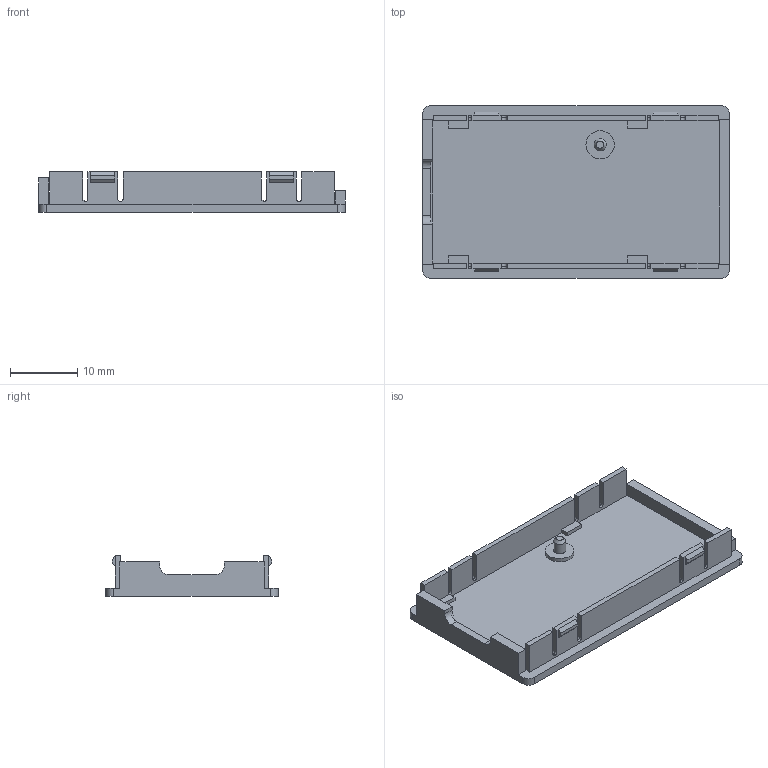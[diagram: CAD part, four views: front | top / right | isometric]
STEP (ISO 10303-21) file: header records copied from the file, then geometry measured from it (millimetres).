
FILE_DESCRIPTION(('Open CASCADE Model'),'2;1');
FILE_NAME('Open CASCADE Shape Model','2026-11-25T16:21:51',('Author'),( 'Open CASCADE'),'Open CASCADE STEP processor 7.9','Open CASCADE 7.9' ,'Unknown');
FILE_SCHEMA(('AUTOMOTIVE_DESIGN { 1 0 10303 214 1 1 1 1 }'));
Length unit declared in the file: millimetre
Products named in the file (1): Open CASCADE STEP translator 7.9 1
Bounding box: 45.45 x 25.6 x 6 mm (x, y, z)
Volume: 1875.6 mm3; surface area: 3597.1 mm2
Topology: 1 solids, 1 shells, 130 faces, 363 edges, 239 vertices
Faces by surface type: plane 100, cylinder 29, cone 1
Full cylindrical faces by diameter (mm): 1.8 x1, 4.2 x1
Entity records: 8931 total; most frequent: CARTESIAN_POINT 1618, DIRECTION 1374, LINE 992, VECTOR 992, ORIENTED_EDGE 726, PCURVE 726, DEFINITIONAL_REPRESENTATION 726, EDGE_CURVE 363
